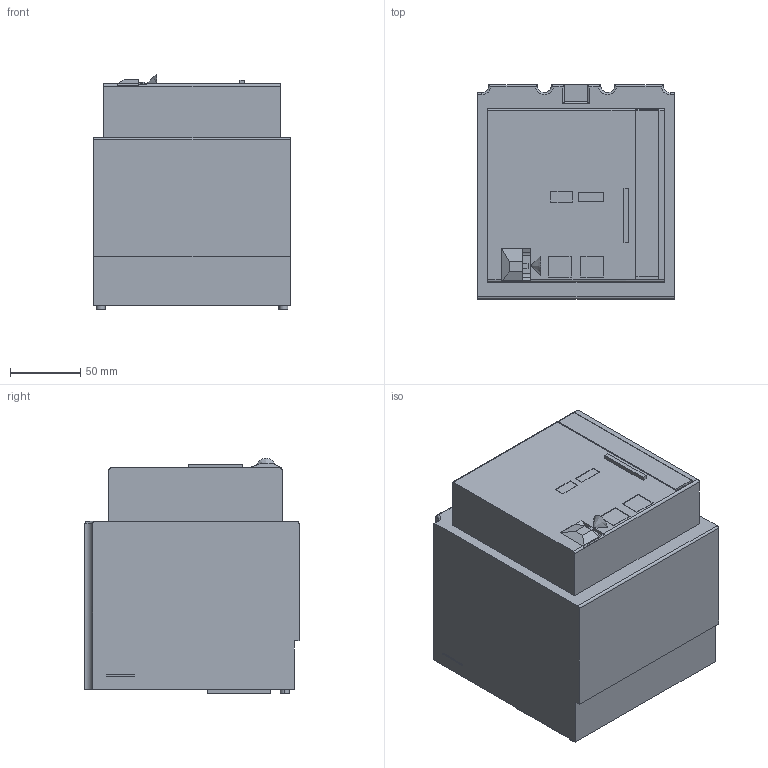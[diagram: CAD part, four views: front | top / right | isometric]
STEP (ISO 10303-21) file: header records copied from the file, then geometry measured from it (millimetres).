
FILE_DESCRIPTION (( 'STEP AP214' ), '1' );
FILE_NAME ('橡桠钿 溻桡囹咫 OptiMat D400, D630-400姥.STEP', '2023-04-03T03:15:32', ( '' ), ( '' ), 'SwSTEP 2.0', 'SolidWorks 2018', '' );
FILE_SCHEMA (( 'AUTOMOTIVE_DESIGN' ));
Length unit declared in the file: millimetre
Products named in the file (1): 橡桠钿 溻桡囹咫 OptiMat D400, D630-400姥
Bounding box: 140 x 152.2 x 167.34 mm (x, y, z)
Volume: 3090311.4 mm3; surface area: 134542.3 mm2
Topology: 1 solids, 1 shells, 149 faces, 375 edges, 243 vertices
Faces by surface type: plane 109, cylinder 30, torus 9, bspline 1
Entity records: 4591 total; most frequent: CARTESIAN_POINT 970, ORIENTED_EDGE 748, DIRECTION 713, EDGE_CURVE 374, VECTOR 297, LINE 297, VERTEX_POINT 243, AXIS2_PLACEMENT_3D 208
